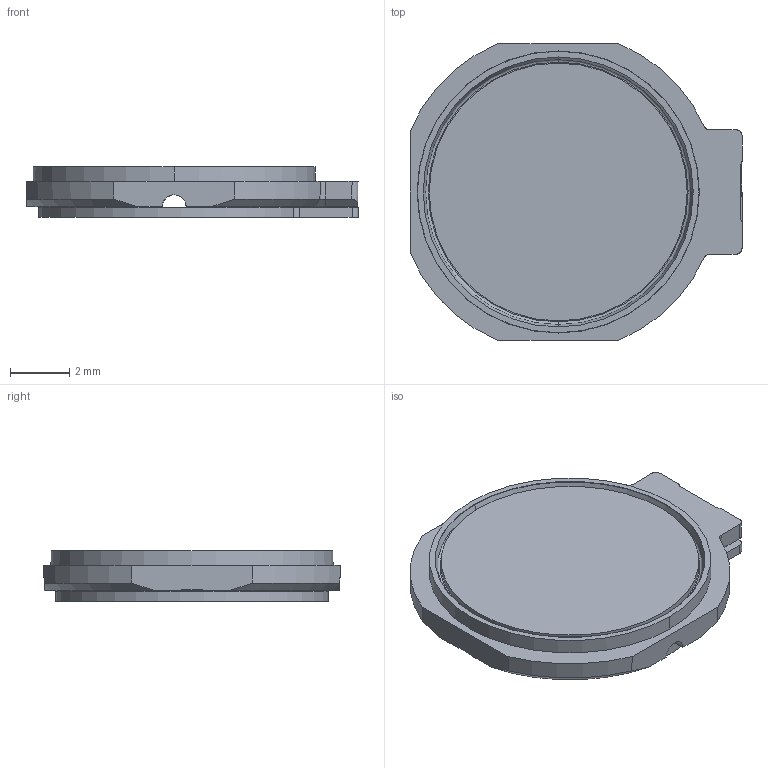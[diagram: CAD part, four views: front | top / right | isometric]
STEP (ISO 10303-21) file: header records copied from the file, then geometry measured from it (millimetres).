
FILE_DESCRIPTION (( 'STEP AP203' ), '1' );
FILE_NAME ('184-108-00_Rev-0-00_Env.STEP', '2024-10-04T06:59:03', ( '' ), ( '' ), 'SwSTEP 2.0', 'SolidWorks 2024', '' );
FILE_SCHEMA (( 'CONFIG_CONTROL_DESIGN' ));
Length unit declared in the file: millimetre
Products named in the file (5): 184-370-XX_00 - OD 8.7mm; 184-149-00; 184-108-00_Rev-0-00_Env; 184-247-01; 184-107-00_Rev-0-00
Assembly tree (4 placements, depth 3):
  184-108-00_Rev-0-00_Env
    184-247-01
    184-149-00
      184-107-00_Rev-0-00
      184-370-XX_00 - OD 8.7mm
Bounding box: 11.2 x 10 x 1.71 mm (x, y, z)
Volume: 70.9 mm3; surface area: 608 mm2
Topology: 5 solids, 7 shells, 125 faces, 280 edges, 186 vertices
Faces by surface type: plane 69, cylinder 25, cone 24, bspline 5, torus 2
Full cylindrical faces by diameter (mm): 3.3 x1, 5.25 x2, 6.85 x2, 7.25 x2, 8.7 x1, 8.85 x2
Entity records: 4172 total; most frequent: CARTESIAN_POINT 911, DIRECTION 566, ORIENTED_EDGE 540, EDGE_CURVE 270, AXIS2_PLACEMENT_3D 216, VERTEX_POINT 186, EDGE_LOOP 164, FACE_OUTER_BOUND 135
